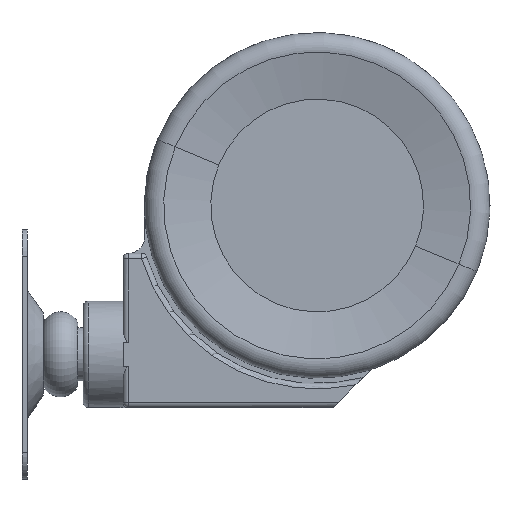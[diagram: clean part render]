
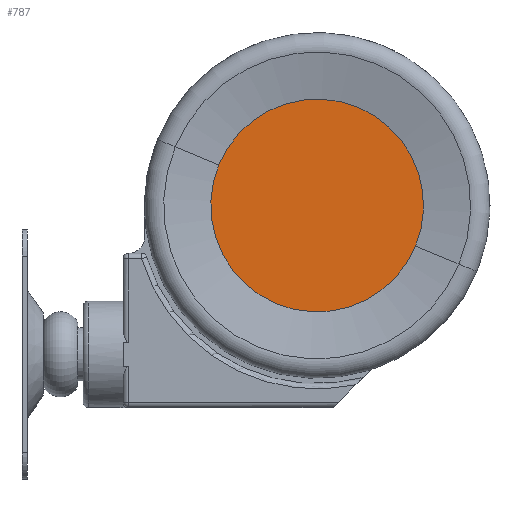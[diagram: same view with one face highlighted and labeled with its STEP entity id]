
A CAD part, left-side view. The second image highlights one B-rep face of the part: STEP entity #787.
In plain terms, the highlighted planar face has unit normal (-1, 0, 0) as drawn and (1, 0, 0) by its records, which use the part's own axes.
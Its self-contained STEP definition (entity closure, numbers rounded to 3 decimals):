
#28 = ORIENTED_EDGE ( 'NONE', *, *, #2562, .F. ) ;
#36 = VERTEX_POINT ( 'NONE', #1972 ) ;
#289 = PLANE ( 'NONE',  #897 ) ;
#311 = DIRECTION ( 'NONE',  ( 0., 0., 1. ) ) ;
#434 = CARTESIAN_POINT ( 'NONE',  ( 24.75, 0., 0. ) ) ;
#787 = ADVANCED_FACE ( 'NONE', ( #1447 ), #289, .F. ) ;
#868 = DIRECTION ( 'NONE',  ( 0., 0., 1. ) ) ;
#885 = CIRCLE ( 'NONE', #1066, 20. ) ;
#894 = DIRECTION ( 'NONE',  ( -1., 0., 0. ) ) ;
#897 = AXIS2_PLACEMENT_3D ( 'NONE', #3490, #2854, #868 ) ;
#1036 = CARTESIAN_POINT ( 'NONE',  ( 24.75, 0., 20. ) ) ;
#1066 = AXIS2_PLACEMENT_3D ( 'NONE', #434, #2311, #3740 ) ;
#1139 = ORIENTED_EDGE ( 'NONE', *, *, #1693, .F. ) ;
#1447 = FACE_OUTER_BOUND ( 'NONE', #2771, .T. ) ;
#1693 = EDGE_CURVE ( 'NONE', #36, #2161, #3163, .T. ) ;
#1972 = CARTESIAN_POINT ( 'NONE',  ( 24.75, 0., -20. ) ) ;
#2161 = VERTEX_POINT ( 'NONE', #1036 ) ;
#2311 = DIRECTION ( 'NONE',  ( -1., 0., 0. ) ) ;
#2562 = EDGE_CURVE ( 'NONE', #2161, #36, #885, .T. ) ;
#2771 = EDGE_LOOP ( 'NONE', ( #1139, #28 ) ) ;
#2854 = DIRECTION ( 'NONE',  ( -1., 0., 0. ) ) ;
#3163 = CIRCLE ( 'NONE', #3270, 20. ) ;
#3270 = AXIS2_PLACEMENT_3D ( 'NONE', #3512, #894, #311 ) ;
#3490 = CARTESIAN_POINT ( 'NONE',  ( 24.75, 0., 0. ) ) ;
#3512 = CARTESIAN_POINT ( 'NONE',  ( 24.75, 0., 0. ) ) ;
#3740 = DIRECTION ( 'NONE',  ( 0., 0., 1. ) ) ;
